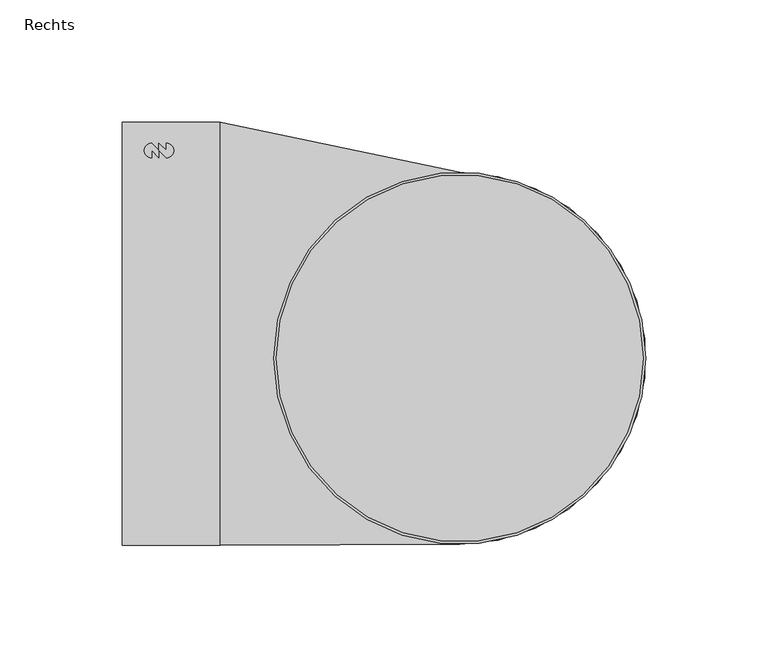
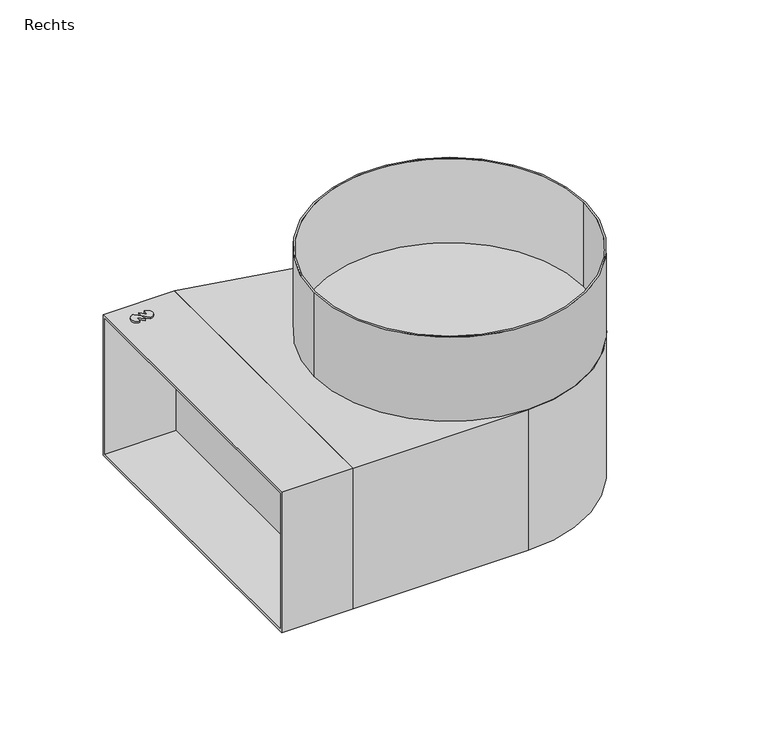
"""IFC4 building model written with IfcOpenShell, lengths in millimetres: duct fitting geometry, NLRS_57_DUF_UN_instortkanaal-rechthoekig-naar-rond-lepe-hoek_LT_velu : Rechts."""

from ifc_helpers import new_model, si_unit, point, frame, frame_2d, origin, place, context, project, spatial, polyline, circle_curve, trimmed, segment, composite_curve, outline, extrude, source, transform, mapped, element, save


def rechts_61f9c098(model_context):
    return source(origin(), model_context, "Body", "SweptSolid", [
        extrude(outline(composite_curve([segment(trimmed(circle_curve(frame_2d((-22.0, 75.0)), 3.0), [point((-22.0, 78.0))], [point((-22.0, 72.0))], False, "CARTESIAN"), True, "CONTINUOUS"), segment(polyline([(-22.0, 72.0), (-25.0, 75.0), (-25.0, 78.0), (-22.0, 75.0), (-22.0, 78.0)]), True, "CONTINUOUS")], self_intersect=False)), frame((0.0, 0.0, -42.5), z_axis=(0.0, 0.0, 1.0), x_axis=(1.0, 0.0, 0.0)), (0.0, 0.0, 1.0), 1.0),
        extrude(outline(composite_curve([segment(trimmed(circle_curve(frame_2d((-28.0, 75.0)), 3.0), [point((-28.0, 72.0))], [point((-28.0, 78.0))], False, "CARTESIAN"), True, "CONTINUOUS"), segment(polyline([(-28.0, 78.0), (-25.0, 75.0), (-25.0, 72.0), (-28.0, 75.0), (-28.0, 72.0)]), True, "CONTINUOUS")], self_intersect=False)), frame((0.0, 0.0, -42.5), z_axis=(0.0, 0.0, 1.0), x_axis=(1.0, 0.0, 0.0)), (0.0, 0.0, 1.0), 1.0),
        extrude(outline(composite_curve([segment(trimmed(circle_curve(frame_2d((-22.0, 75.0)), 3.0), [point((-22.0, 78.0))], [point((-22.0, 72.0))], False, "CARTESIAN"), True, "CONTINUOUS"), segment(polyline([(-22.0, 72.0), (-25.0, 75.0), (-25.0, 78.0), (-22.0, 75.0), (-22.0, 78.0)]), True, "CONTINUOUS")], self_intersect=False)), frame((0.0, 0.0, 41.5), z_axis=(0.0, 0.0, 1.0), x_axis=(1.0, 0.0, 0.0)), (0.0, 0.0, 1.0), 1.0),
        extrude(outline(composite_curve([segment(trimmed(circle_curve(frame_2d((-28.0, 75.0)), 3.0), [point((-28.0, 72.0))], [point((-28.0, 78.0))], False, "CARTESIAN"), True, "CONTINUOUS"), segment(polyline([(-28.0, 78.0), (-25.0, 75.0), (-25.0, 72.0), (-28.0, 75.0), (-28.0, 72.0)]), True, "CONTINUOUS")], self_intersect=False)), frame((0.0, 0.0, 41.5), z_axis=(0.0, 0.0, 1.0), x_axis=(1.0, 0.0, 0.0)), (0.0, 0.0, 1.0), 1.0),
        extrude(outline(composite_curve([segment(polyline([(0.0, -86.5), (0.0, 86.5), (98.0, 66.0)]), True, "CONTINUOUS"), segment(trimmed(circle_curve(frame_2d((98.0, -10.0)), 76.0), [point((98.0, 66.0))], [point((98.0, -86.0))], False, "CARTESIAN"), True, "CONTINUOUS"), segment(polyline([(98.0, -86.0), (0.0, -86.5)]), True, "CONTINUOUS")], self_intersect=False)), frame((0.0, 0.0, -41.5), z_axis=(0.0, 0.0, 1.0), x_axis=(1.0, 0.0, 0.0)), (0.0, 0.0, 1.0), 83.0),
        extrude(outline(composite_curve([segment(trimmed(circle_curve(frame_2d((98.0, -10.0)), 76.0), [point((22.0, -10.0))], [point((174.0, -10.0))], False, "CARTESIAN"), True, "CONTINUOUS"), segment(trimmed(circle_curve(frame_2d((98.0, -10.0)), 76.0), [point((174.0, -10.0))], [point((22.0, -10.0))], False, "CARTESIAN"), True, "CONTINUOUS")], self_intersect=False), holes=[composite_curve([segment(trimmed(circle_curve(frame_2d((98.0, -10.0)), 75.0), [point((23.0, -10.0))], [point((173.0, -10.0))], True, "CARTESIAN"), True, "CONTINUOUS"), segment(trimmed(circle_curve(frame_2d((98.0, -10.0)), 75.0), [point((173.0, -10.0))], [point((23.0, -10.0))], True, "CARTESIAN"), True, "CONTINUOUS")], self_intersect=False)]), frame((0.0, 0.0, 41.5), z_axis=(0.0, 0.0, 1.0), x_axis=(1.0, 0.0, 0.0)), (0.0, 0.0, 1.0), 50.0),
        extrude(outline(polyline([(-86.5, 41.5), (86.5, 41.5), (86.5, -41.5), (-86.5, -41.5), (-86.5, 41.5)]), holes=[polyline([(-85.0, 40.0), (-85.0, -40.0), (85.0, -40.0), (85.0, 40.0), (-85.0, 40.0)])]), frame((-40.0, 0.0, 0.0), z_axis=(1.0, 0.0, 0.0), x_axis=(0.0, 1.0, 0.0)), (0.0, 0.0, 1.0), 40.0),
    ])


if __name__ == "__main__":
    model = new_model("IFC4")
    model_context = context("Model", 3, world=origin())
    ifc_project = project(units=[si_unit("LENGTHUNIT", "METRE", prefix="MILLI")], contexts=[model_context])
    site = spatial("IfcSite", under=ifc_project)
    building = spatial("IfcBuilding", under=site)
    placement = place(None, origin())
    rechts_shape = rechts_61f9c098(model_context)
    element("IfcDuctFitting", 1, ObjectType="NLRS_57_DUF_UN_instortkanaal-rechthoekig-naar-rond-lepe-hoek_LT_velu : Rechts", at=placement, inside=building, context=model_context, shape_type="MappedRepresentation", body=[
        mapped(rechts_shape, transform((0.0, 0.0, 0.0), x_axis=(1.0, 0.0, 0.0), y_axis=(0.0, 1.0, 0.0), z_axis=(0.0, 0.0, 1.0))),
    ])
    save(model, "model.ifc")
